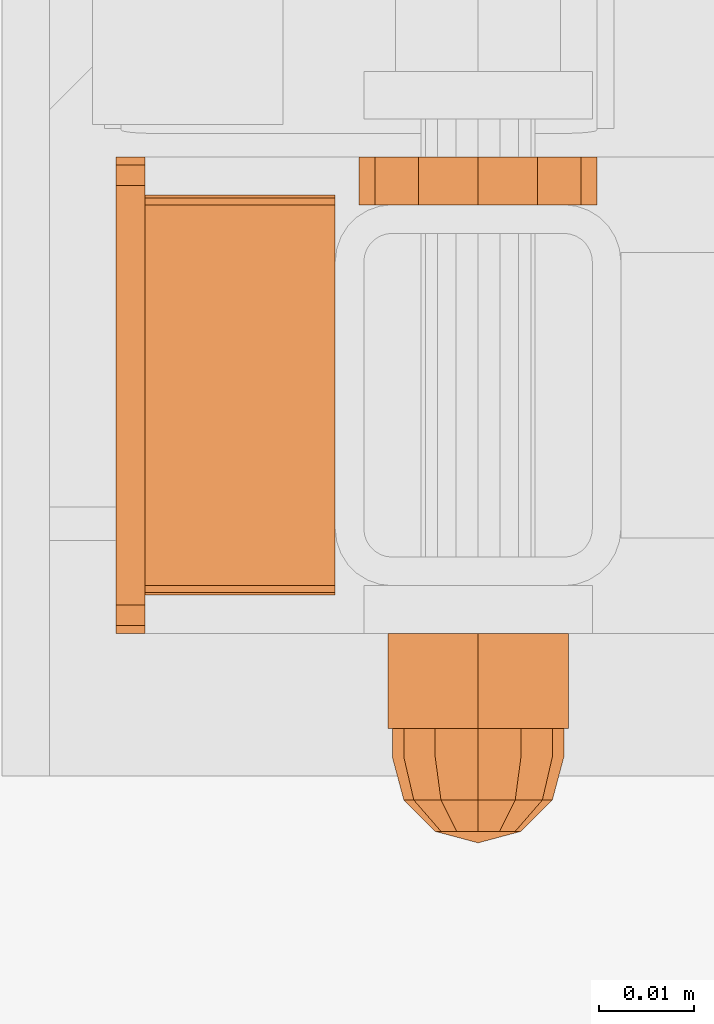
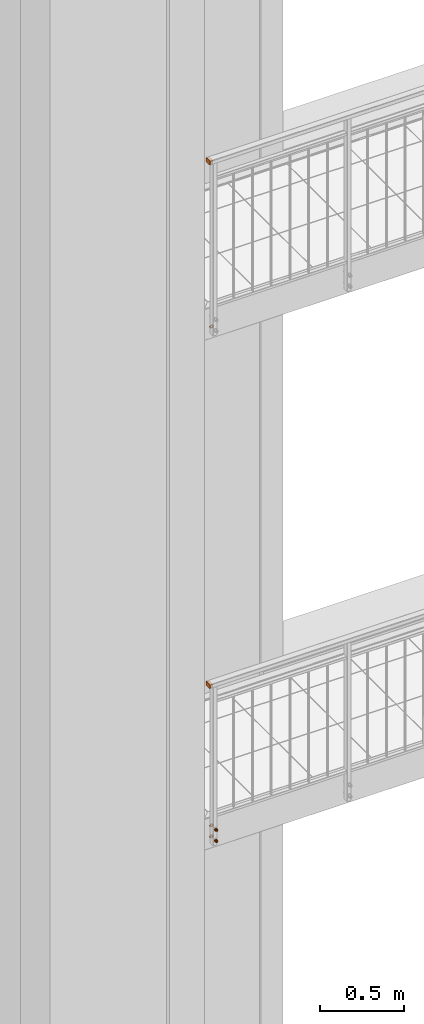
# One storey, part 102 of 162: 7 proxies.
"""IFC2X3 building model written with IfcOpenShell, lengths in millimetres."""

from ifc_helpers import new_model, entity, si_unit, converted_unit, origin_with_axes, place, context, project, spatial, faceted_brep, material, element, save


model = new_model("IFC2X3")

# Units and contexts
model_context = context("Model", 3, precision=1e-09, world=origin_with_axes())
ifc_project = project(units=[si_unit("LENGTHUNIT", "METRE", prefix="MILLI"), si_unit("AREAUNIT", "SQUARE_METRE"), si_unit("VOLUMEUNIT", "CUBIC_METRE"), converted_unit("PLANEANGLEUNIT", "DEGREE", entity("IfcPlaneAngleMeasure", 0.01745329), si_unit("PLANEANGLEUNIT", "RADIAN"), dimensions=[0, 0, 0, 0, 0, 0, 0])], contexts=[model_context])

# Site, building, storey
site_placement = place(None, origin_with_axes())
site = spatial("IfcSite", under=ifc_project, at=site_placement, Name="Hermannstra?e 1a, 60318 Frankfurt", CompositionType="ELEMENT")
building_placement = place(site_placement, origin_with_axes())
building = spatial("IfcBuilding", under=site, at=building_placement, Name="Struktur 1", CompositionType="ELEMENT")
storey_placement = place(building_placement, origin_with_axes())
storey = spatial("IfcBuildingStorey", under=building, at=storey_placement, Name="Default Storey", CompositionType="ELEMENT", Elevation=0.0)

# Proxies
ifc_material = material(Name="Kein")
proxy_1_placement = place(None, origin_with_axes())
element("IfcBuildingElementProxy", 1, at=proxy_1_placement, inside=storey, material=ifc_material, ObjectType="-", context=model_context, shape_type="Brep", body=[
    faceted_brep([(2592.484047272, 1535.609373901, 7633.75), (2597.05936482, 1535.609373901, 7629.174682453), (2603.30936482, 1535.609373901, 7627.5), (2609.55936482, 1535.609373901, 7629.174682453), (2614.134682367, 1535.609373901, 7633.75), (2615.80936482, 1535.609373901, 7640.0), (2614.134682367, 1535.609373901, 7646.25), (2609.55936482, 1535.609373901, 7650.825317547), (2603.30936482, 1535.609373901, 7652.5), (2597.05936482, 1535.609373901, 7650.825317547), (2592.484047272, 1535.609373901, 7646.25), (2590.80936482, 1535.609373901, 7640.0), (2603.30936482, 1535.609373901, 7634.0), (2600.30936482, 1535.609373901, 7634.803847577), (2598.113212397, 1535.609373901, 7637.0), (2597.30936482, 1535.609373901, 7640.0), (2598.113212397, 1535.609373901, 7643.0), (2600.30936482, 1535.609373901, 7645.196152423), (2603.30936482, 1535.609373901, 7646.0), (2606.30936482, 1535.609373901, 7645.196152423), (2608.505517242, 1535.609373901, 7643.0), (2609.30936482, 1535.609373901, 7640.0), (2608.505517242, 1535.609373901, 7637.0), (2606.30936482, 1535.609373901, 7634.803847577), (2592.484047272, 1540.609373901, 7633.75), (2597.05936482, 1540.609373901, 7629.174682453), (2590.80936482, 1540.609373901, 7640.0), (2592.484047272, 1540.609373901, 7646.25), (2597.05936482, 1540.609373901, 7650.825317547), (2603.30936482, 1540.609373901, 7652.5), (2609.55936482, 1540.609373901, 7650.825317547), (2614.134682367, 1540.609373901, 7646.25), (2615.80936482, 1540.609373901, 7640.0), (2614.134682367, 1540.609373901, 7633.75), (2609.55936482, 1540.609373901, 7629.174682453), (2603.30936482, 1540.609373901, 7627.5), (2598.113212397, 1540.609373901, 7643.0), (2597.30936482, 1540.609373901, 7640.0), (2598.113212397, 1540.609373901, 7637.0), (2600.30936482, 1540.609373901, 7634.803847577), (2603.30936482, 1540.609373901, 7634.0), (2606.30936482, 1540.609373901, 7634.803847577), (2608.505517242, 1540.609373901, 7637.0), (2609.30936482, 1540.609373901, 7640.0), (2608.505517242, 1540.609373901, 7643.0), (2606.30936482, 1540.609373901, 7645.196152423), (2603.30936482, 1540.609373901, 7646.0), (2600.30936482, 1540.609373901, 7645.196152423)], [[[0, 1, 2, 3, 4, 5, 6, 7, 8, 9, 10, 11], [12, 13, 14, 15, 16, 17, 18, 19, 20, 21, 22, 23]], [[0, 24, 25, 1]], [[24, 26, 27, 28, 29, 30, 31, 32, 33, 34, 35, 25], [36, 37, 38, 39, 40, 41, 42, 43, 44, 45, 46, 47]], [[38, 14, 13, 39]], [[24, 0, 11, 26]], [[14, 38, 37, 15]], [[39, 13, 12, 40]], [[1, 25, 35, 2]], [[26, 11, 10, 27]], [[15, 37, 36, 16]], [[40, 12, 23, 41]], [[2, 35, 34, 3]], [[27, 10, 9, 28]], [[16, 36, 47, 17]], [[22, 42, 41, 23]], [[3, 34, 33, 4]], [[42, 22, 21, 43]], [[28, 9, 8, 29]], [[17, 47, 46, 18]], [[20, 44, 43, 21]], [[4, 33, 32, 5]], [[45, 19, 18, 46]], [[44, 20, 19, 45]], [[29, 8, 7, 30]], [[5, 32, 31, 6]], [[30, 7, 6, 31]]]),
])
proxy_2_placement = place(None, origin_with_axes())
element("IfcBuildingElementProxy", 2, at=proxy_2_placement, inside=storey, material=ifc_material, ObjectType="-", context=model_context, shape_type="Brep", body=[
    faceted_brep([(2592.484047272, 1535.609373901, 7713.75), (2597.05936482, 1535.609373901, 7709.174682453), (2603.30936482, 1535.609373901, 7707.5), (2609.55936482, 1535.609373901, 7709.174682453), (2614.134682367, 1535.609373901, 7713.75), (2615.80936482, 1535.609373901, 7720.0), (2614.134682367, 1535.609373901, 7726.25), (2609.55936482, 1535.609373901, 7730.825317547), (2603.30936482, 1535.609373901, 7732.5), (2597.05936482, 1535.609373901, 7730.825317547), (2592.484047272, 1535.609373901, 7726.25), (2590.80936482, 1535.609373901, 7720.0), (2603.30936482, 1535.609373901, 7714.0), (2600.30936482, 1535.609373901, 7714.803847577), (2598.113212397, 1535.609373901, 7717.0), (2597.30936482, 1535.609373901, 7720.0), (2598.113212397, 1535.609373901, 7723.0), (2600.30936482, 1535.609373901, 7725.196152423), (2603.30936482, 1535.609373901, 7726.0), (2606.30936482, 1535.609373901, 7725.196152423), (2608.505517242, 1535.609373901, 7723.0), (2609.30936482, 1535.609373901, 7720.0), (2608.505517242, 1535.609373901, 7717.0), (2606.30936482, 1535.609373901, 7714.803847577), (2592.484047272, 1540.609373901, 7713.75), (2597.05936482, 1540.609373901, 7709.174682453), (2590.80936482, 1540.609373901, 7720.0), (2592.484047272, 1540.609373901, 7726.25), (2597.05936482, 1540.609373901, 7730.825317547), (2603.30936482, 1540.609373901, 7732.5), (2609.55936482, 1540.609373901, 7730.825317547), (2614.134682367, 1540.609373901, 7726.25), (2615.80936482, 1540.609373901, 7720.0), (2614.134682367, 1540.609373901, 7713.75), (2609.55936482, 1540.609373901, 7709.174682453), (2603.30936482, 1540.609373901, 7707.5), (2598.113212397, 1540.609373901, 7723.0), (2597.30936482, 1540.609373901, 7720.0), (2598.113212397, 1540.609373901, 7717.0), (2600.30936482, 1540.609373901, 7714.803847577), (2603.30936482, 1540.609373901, 7714.0), (2606.30936482, 1540.609373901, 7714.803847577), (2608.505517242, 1540.609373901, 7717.0), (2609.30936482, 1540.609373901, 7720.0), (2608.505517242, 1540.609373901, 7723.0), (2606.30936482, 1540.609373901, 7725.196152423), (2603.30936482, 1540.609373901, 7726.0), (2600.30936482, 1540.609373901, 7725.196152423)], [[[0, 1, 2, 3, 4, 5, 6, 7, 8, 9, 10, 11], [12, 13, 14, 15, 16, 17, 18, 19, 20, 21, 22, 23]], [[0, 24, 25, 1]], [[24, 26, 27, 28, 29, 30, 31, 32, 33, 34, 35, 25], [36, 37, 38, 39, 40, 41, 42, 43, 44, 45, 46, 47]], [[38, 14, 13, 39]], [[24, 0, 11, 26]], [[14, 38, 37, 15]], [[39, 13, 12, 40]], [[1, 25, 35, 2]], [[26, 11, 10, 27]], [[15, 37, 36, 16]], [[40, 12, 23, 41]], [[2, 35, 34, 3]], [[27, 10, 9, 28]], [[16, 36, 47, 17]], [[22, 42, 41, 23]], [[3, 34, 33, 4]], [[42, 22, 21, 43]], [[28, 9, 8, 29]], [[17, 47, 46, 18]], [[20, 44, 43, 21]], [[4, 33, 32, 5]], [[45, 19, 18, 46]], [[44, 20, 19, 45]], [[29, 8, 7, 30]], [[5, 32, 31, 6]], [[30, 7, 6, 31]]]),
])
proxy_3_placement = place(None, origin_with_axes())
element("IfcBuildingElementProxy", 3, at=proxy_3_placement, inside=storey, material=ifc_material, ObjectType="-", context=model_context, shape_type="Brep", body=[
    faceted_brep([(2597.30936482, 1490.609373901, 7720.0), (2597.30936482, 1480.609373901, 7720.0), (2598.113212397, 1480.609373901, 7717.0), (2598.113212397, 1490.609373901, 7717.0), (2600.30936482, 1480.609373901, 7714.803847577), (2600.30936482, 1490.609373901, 7714.803847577), (2598.113212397, 1490.609373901, 7723.0), (2598.113212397, 1480.609373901, 7723.0), (2593.829495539, 1490.609373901, 7725.473205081), (2603.30936482, 1490.609373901, 7730.946410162), (2612.7892341, 1490.609373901, 7725.473205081), (2612.7892341, 1490.609373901, 7714.526794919), (2603.30936482, 1490.609373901, 7709.053589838), (2593.829495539, 1490.609373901, 7714.526794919), (2600.30936482, 1490.609373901, 7725.196152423), (2603.30936482, 1490.609373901, 7714.0), (2606.30936482, 1490.609373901, 7714.803847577), (2608.505517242, 1490.609373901, 7717.0), (2609.30936482, 1490.609373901, 7720.0), (2608.505517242, 1490.609373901, 7723.0), (2606.30936482, 1490.609373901, 7725.196152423), (2603.30936482, 1490.609373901, 7726.0), (2603.30936482, 1480.609373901, 7730.946410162), (2593.829495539, 1480.609373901, 7725.473205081), (2593.829495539, 1480.609373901, 7714.526794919), (2603.30936482, 1480.609373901, 7709.053589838), (2612.7892341, 1480.609373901, 7714.526794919), (2612.7892341, 1480.609373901, 7725.473205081), (2600.30936482, 1480.609373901, 7725.196152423), (2603.30936482, 1480.609373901, 7726.0), (2606.30936482, 1480.609373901, 7725.196152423), (2608.505517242, 1480.609373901, 7723.0), (2609.30936482, 1480.609373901, 7720.0), (2608.505517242, 1480.609373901, 7717.0), (2606.30936482, 1480.609373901, 7714.803847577), (2603.30936482, 1480.609373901, 7714.0)], [[[0, 1, 2, 3]], [[3, 2, 4, 5]], [[1, 0, 6, 7]], [[8, 9, 10, 11, 12, 13], [14, 6, 0, 3, 5, 15, 16, 17, 18, 19, 20, 21]], [[22, 23, 24, 25, 26, 27], [1, 7, 28, 29, 30, 31, 32, 33, 34, 35, 4, 2]], [[7, 6, 14, 28]], [[24, 23, 8, 13]], [[5, 4, 35, 15]], [[13, 12, 25, 24]], [[28, 14, 21, 29]], [[23, 22, 9, 8]], [[15, 35, 34, 16]], [[12, 11, 26, 25]], [[29, 21, 20, 30]], [[22, 27, 10, 9]], [[16, 34, 33, 17]], [[27, 26, 11, 10]], [[30, 20, 19, 31]], [[17, 33, 32, 18]], [[31, 19, 18, 32]]]),
    faceted_brep([(2603.30936482, 1480.609373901, 7729.0), (2603.30936482, 1477.609373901, 7729.0), (2607.80936482, 1477.609373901, 7727.794228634), (2607.80936482, 1480.609373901, 7727.794228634), (2598.80936482, 1480.609373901, 7727.794228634), (2598.80936482, 1477.609373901, 7727.794228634), (2595.515136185, 1477.609373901, 7715.5), (2598.80936482, 1477.609373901, 7712.205771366), (2603.30936482, 1477.609373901, 7711.0), (2607.80936482, 1477.609373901, 7712.205771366), (2611.103593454, 1477.609373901, 7715.5), (2612.30936482, 1477.609373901, 7720.0), (2611.103593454, 1477.609373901, 7724.5), (2595.515136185, 1477.609373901, 7724.5), (2594.30936482, 1477.609373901, 7720.0), (2611.103593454, 1480.609373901, 7715.5), (2607.80936482, 1480.609373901, 7712.205771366), (2603.30936482, 1480.609373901, 7711.0), (2598.80936482, 1480.609373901, 7712.205771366), (2595.515136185, 1480.609373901, 7715.5), (2594.30936482, 1480.609373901, 7720.0), (2595.515136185, 1480.609373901, 7724.5), (2611.103593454, 1480.609373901, 7724.5), (2612.30936482, 1480.609373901, 7720.0)], [[[0, 1, 2, 3]], [[1, 0, 4, 5]], [[6, 7, 8, 9, 10, 11, 12, 2, 1, 5, 13, 14]], [[15, 16, 17, 18, 19, 20, 21, 4, 0, 3, 22, 23]], [[3, 2, 12, 22]], [[5, 4, 21, 13]], [[22, 12, 11, 23]], [[13, 21, 20, 14]], [[7, 18, 17, 8]], [[19, 6, 14, 20]], [[18, 7, 6, 19]], [[23, 11, 10, 15]], [[8, 17, 16, 9]], [[15, 10, 9, 16]]]),
    faceted_brep([(2595.515136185, 1477.609373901, 7724.5), (2596.55936482, 1473.109373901, 7723.897114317), (2599.412250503, 1473.109373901, 7726.75), (2598.80936482, 1477.609373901, 7727.794228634), (2611.103593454, 1477.609373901, 7715.5), (2607.80936482, 1477.609373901, 7712.205771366), (2603.30936482, 1477.609373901, 7711.0), (2598.80936482, 1477.609373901, 7712.205771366), (2595.515136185, 1477.609373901, 7715.5), (2594.30936482, 1477.609373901, 7720.0), (2603.30936482, 1477.609373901, 7729.0), (2607.80936482, 1477.609373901, 7727.794228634), (2611.103593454, 1477.609373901, 7724.5), (2612.30936482, 1477.609373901, 7720.0), (2603.30936482, 1473.109373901, 7727.794228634), (2595.515136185, 1473.109373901, 7720.0), (2598.80936482, 1469.815145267, 7720.0), (2599.412250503, 1469.815145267, 7722.25), (2607.206479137, 1473.109373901, 7726.75), (2601.05936482, 1469.815145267, 7723.897114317), (2596.55936482, 1473.109373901, 7716.102885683), (2599.412250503, 1469.815145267, 7717.75), (2603.30936482, 1469.815145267, 7724.5), (2603.30936482, 1468.609373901, 7720.0), (2599.412250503, 1473.109373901, 7713.25), (2601.05936482, 1469.815145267, 7716.102885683), (2603.30936482, 1473.109373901, 7712.205771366), (2610.05936482, 1473.109373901, 7723.897114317), (2605.55936482, 1469.815145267, 7723.897114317), (2603.30936482, 1469.815145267, 7715.5), (2607.206479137, 1473.109373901, 7713.25), (2605.55936482, 1469.815145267, 7716.102885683), (2611.103593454, 1473.109373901, 7720.0), (2607.206479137, 1469.815145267, 7722.25), (2610.05936482, 1473.109373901, 7716.102885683), (2607.206479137, 1469.815145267, 7717.75), (2607.80936482, 1469.815145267, 7720.0)], [[[0, 1, 2, 3]], [[4, 5, 6, 7, 8, 9, 0, 3, 10, 11, 12, 13]], [[3, 2, 14, 10]], [[15, 16, 17, 1]], [[1, 0, 9, 15]], [[10, 14, 18, 11]], [[1, 17, 19, 2]], [[16, 15, 20, 21]], [[2, 19, 22, 14]], [[23, 17, 16]], [[24, 25, 21, 20]], [[23, 16, 21]], [[24, 7, 6, 26]], [[20, 8, 7, 24]], [[15, 9, 8, 20]], [[11, 18, 27, 12]], [[14, 22, 28, 18]], [[23, 19, 17]], [[26, 29, 25, 24]], [[23, 21, 25]], [[23, 22, 19]], [[26, 6, 5, 30]], [[29, 26, 30, 31]], [[23, 25, 29]], [[12, 27, 32, 13]], [[18, 28, 33, 27]], [[23, 28, 22]], [[23, 29, 31]], [[23, 33, 28]], [[30, 5, 4, 34]], [[31, 30, 34, 35]], [[23, 31, 35]], [[13, 32, 34, 4]], [[27, 33, 36, 32]], [[23, 36, 33]], [[23, 35, 36]], [[35, 34, 32, 36]]]),
])
proxy_4_placement = place(None, origin_with_axes())
element("IfcBuildingElementProxy", 4, at=proxy_4_placement, inside=storey, material=ifc_material, ObjectType="-", context=model_context, shape_type="Brep", body=[
    faceted_brep([(2597.30936482, 1490.609373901, 7640.0), (2597.30936482, 1480.609373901, 7640.0), (2598.113212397, 1480.609373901, 7637.0), (2598.113212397, 1490.609373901, 7637.0), (2600.30936482, 1480.609373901, 7634.803847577), (2600.30936482, 1490.609373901, 7634.803847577), (2598.113212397, 1490.609373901, 7643.0), (2598.113212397, 1480.609373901, 7643.0), (2593.829495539, 1490.609373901, 7645.473205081), (2603.30936482, 1490.609373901, 7650.946410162), (2612.7892341, 1490.609373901, 7645.473205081), (2612.7892341, 1490.609373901, 7634.526794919), (2603.30936482, 1490.609373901, 7629.053589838), (2593.829495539, 1490.609373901, 7634.526794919), (2600.30936482, 1490.609373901, 7645.196152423), (2603.30936482, 1490.609373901, 7634.0), (2606.30936482, 1490.609373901, 7634.803847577), (2608.505517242, 1490.609373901, 7637.0), (2609.30936482, 1490.609373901, 7640.0), (2608.505517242, 1490.609373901, 7643.0), (2606.30936482, 1490.609373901, 7645.196152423), (2603.30936482, 1490.609373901, 7646.0), (2603.30936482, 1480.609373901, 7650.946410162), (2593.829495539, 1480.609373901, 7645.473205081), (2593.829495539, 1480.609373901, 7634.526794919), (2603.30936482, 1480.609373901, 7629.053589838), (2612.7892341, 1480.609373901, 7634.526794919), (2612.7892341, 1480.609373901, 7645.473205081), (2600.30936482, 1480.609373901, 7645.196152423), (2603.30936482, 1480.609373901, 7646.0), (2606.30936482, 1480.609373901, 7645.196152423), (2608.505517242, 1480.609373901, 7643.0), (2609.30936482, 1480.609373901, 7640.0), (2608.505517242, 1480.609373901, 7637.0), (2606.30936482, 1480.609373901, 7634.803847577), (2603.30936482, 1480.609373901, 7634.0)], [[[0, 1, 2, 3]], [[3, 2, 4, 5]], [[1, 0, 6, 7]], [[8, 9, 10, 11, 12, 13], [14, 6, 0, 3, 5, 15, 16, 17, 18, 19, 20, 21]], [[22, 23, 24, 25, 26, 27], [1, 7, 28, 29, 30, 31, 32, 33, 34, 35, 4, 2]], [[7, 6, 14, 28]], [[24, 23, 8, 13]], [[5, 4, 35, 15]], [[13, 12, 25, 24]], [[28, 14, 21, 29]], [[23, 22, 9, 8]], [[15, 35, 34, 16]], [[12, 11, 26, 25]], [[29, 21, 20, 30]], [[22, 27, 10, 9]], [[16, 34, 33, 17]], [[27, 26, 11, 10]], [[30, 20, 19, 31]], [[17, 33, 32, 18]], [[31, 19, 18, 32]]]),
    faceted_brep([(2603.30936482, 1480.609373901, 7649.0), (2603.30936482, 1477.609373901, 7649.0), (2607.80936482, 1477.609373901, 7647.794228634), (2607.80936482, 1480.609373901, 7647.794228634), (2598.80936482, 1480.609373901, 7647.794228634), (2598.80936482, 1477.609373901, 7647.794228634), (2595.515136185, 1477.609373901, 7635.5), (2598.80936482, 1477.609373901, 7632.205771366), (2603.30936482, 1477.609373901, 7631.0), (2607.80936482, 1477.609373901, 7632.205771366), (2611.103593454, 1477.609373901, 7635.5), (2612.30936482, 1477.609373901, 7640.0), (2611.103593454, 1477.609373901, 7644.5), (2595.515136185, 1477.609373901, 7644.5), (2594.30936482, 1477.609373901, 7640.0), (2611.103593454, 1480.609373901, 7635.5), (2607.80936482, 1480.609373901, 7632.205771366), (2603.30936482, 1480.609373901, 7631.0), (2598.80936482, 1480.609373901, 7632.205771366), (2595.515136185, 1480.609373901, 7635.5), (2594.30936482, 1480.609373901, 7640.0), (2595.515136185, 1480.609373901, 7644.5), (2611.103593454, 1480.609373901, 7644.5), (2612.30936482, 1480.609373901, 7640.0)], [[[0, 1, 2, 3]], [[1, 0, 4, 5]], [[6, 7, 8, 9, 10, 11, 12, 2, 1, 5, 13, 14]], [[15, 16, 17, 18, 19, 20, 21, 4, 0, 3, 22, 23]], [[3, 2, 12, 22]], [[5, 4, 21, 13]], [[22, 12, 11, 23]], [[13, 21, 20, 14]], [[7, 18, 17, 8]], [[19, 6, 14, 20]], [[18, 7, 6, 19]], [[23, 11, 10, 15]], [[8, 17, 16, 9]], [[15, 10, 9, 16]]]),
    faceted_brep([(2595.515136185, 1477.609373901, 7644.5), (2596.55936482, 1473.109373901, 7643.897114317), (2599.412250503, 1473.109373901, 7646.75), (2598.80936482, 1477.609373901, 7647.794228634), (2611.103593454, 1477.609373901, 7635.5), (2607.80936482, 1477.609373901, 7632.205771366), (2603.30936482, 1477.609373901, 7631.0), (2598.80936482, 1477.609373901, 7632.205771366), (2595.515136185, 1477.609373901, 7635.5), (2594.30936482, 1477.609373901, 7640.0), (2603.30936482, 1477.609373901, 7649.0), (2607.80936482, 1477.609373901, 7647.794228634), (2611.103593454, 1477.609373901, 7644.5), (2612.30936482, 1477.609373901, 7640.0), (2603.30936482, 1473.109373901, 7647.794228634), (2595.515136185, 1473.109373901, 7640.0), (2598.80936482, 1469.815145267, 7640.0), (2599.412250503, 1469.815145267, 7642.25), (2607.206479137, 1473.109373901, 7646.75), (2601.05936482, 1469.815145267, 7643.897114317), (2596.55936482, 1473.109373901, 7636.102885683), (2599.412250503, 1469.815145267, 7637.75), (2603.30936482, 1469.815145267, 7644.5), (2603.30936482, 1468.609373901, 7640.0), (2599.412250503, 1473.109373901, 7633.25), (2601.05936482, 1469.815145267, 7636.102885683), (2603.30936482, 1473.109373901, 7632.205771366), (2610.05936482, 1473.109373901, 7643.897114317), (2605.55936482, 1469.815145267, 7643.897114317), (2603.30936482, 1469.815145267, 7635.5), (2607.206479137, 1473.109373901, 7633.25), (2605.55936482, 1469.815145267, 7636.102885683), (2611.103593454, 1473.109373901, 7640.0), (2607.206479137, 1469.815145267, 7642.25), (2610.05936482, 1473.109373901, 7636.102885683), (2607.206479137, 1469.815145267, 7637.75), (2607.80936482, 1469.815145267, 7640.0)], [[[0, 1, 2, 3]], [[4, 5, 6, 7, 8, 9, 0, 3, 10, 11, 12, 13]], [[3, 2, 14, 10]], [[15, 16, 17, 1]], [[1, 0, 9, 15]], [[10, 14, 18, 11]], [[1, 17, 19, 2]], [[16, 15, 20, 21]], [[2, 19, 22, 14]], [[23, 17, 16]], [[24, 25, 21, 20]], [[23, 16, 21]], [[24, 7, 6, 26]], [[20, 8, 7, 24]], [[15, 9, 8, 20]], [[11, 18, 27, 12]], [[14, 22, 28, 18]], [[23, 19, 17]], [[26, 29, 25, 24]], [[23, 21, 25]], [[23, 22, 19]], [[26, 6, 5, 30]], [[29, 26, 30, 31]], [[23, 25, 29]], [[12, 27, 32, 13]], [[18, 28, 33, 27]], [[23, 28, 22]], [[23, 29, 31]], [[23, 33, 28]], [[30, 5, 4, 34]], [[31, 30, 34, 35]], [[23, 31, 35]], [[13, 32, 34, 4]], [[27, 33, 36, 32]], [[23, 36, 33]], [[23, 35, 36]], [[35, 34, 32, 36]]]),
])
proxy_5_placement = place(None, origin_with_axes())
element("IfcBuildingElementProxy", 5, at=proxy_5_placement, inside=storey, material=ifc_material, ObjectType="-", context=model_context, shape_type="Brep", body=[
    faceted_brep([(2588.31036482, 1494.609373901, 8756.0), (2588.31036482, 1494.609373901, 8774.0), (2568.31036482, 1494.609373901, 8774.0), (2568.31036482, 1494.609373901, 8756.0), (2588.31036482, 1494.877323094, 8775.0), (2568.31036482, 1494.877323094, 8775.0), (2568.31036482, 1495.609373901, 8775.732050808), (2588.31036482, 1495.609373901, 8775.732050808), (2588.31036482, 1496.609373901, 8776.0), (2568.31036482, 1496.609373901, 8776.0), (2568.31036482, 1494.877323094, 8755.0), (2588.31036482, 1494.877323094, 8755.0), (2568.31036482, 1495.609373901, 8754.267949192), (2588.31036482, 1495.609373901, 8754.267949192), (2588.31036482, 1496.609373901, 8754.0), (2588.31036482, 1534.609373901, 8754.0), (2588.31036482, 1535.609373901, 8754.267949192), (2588.31036482, 1536.341424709, 8755.0), (2588.31036482, 1536.609373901, 8756.0), (2588.31036482, 1536.609373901, 8774.0), (2588.31036482, 1536.341424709, 8775.0), (2588.31036482, 1535.609373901, 8775.732050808), (2588.31036482, 1534.609373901, 8776.0), (2588.31036482, 1498.609373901, 8772.0), (2588.31036482, 1532.609373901, 8772.0), (2588.31036482, 1532.609373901, 8758.0), (2588.31036482, 1498.609373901, 8758.0), (2568.31036482, 1534.609373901, 8776.0), (2568.31036482, 1535.609373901, 8775.732050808), (2568.31036482, 1536.341424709, 8775.0), (2568.31036482, 1536.609373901, 8774.0), (2568.31036482, 1536.609373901, 8756.0), (2568.31036482, 1536.341424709, 8755.0), (2568.31036482, 1535.609373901, 8754.267949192), (2568.31036482, 1534.609373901, 8754.0), (2568.31036482, 1496.609373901, 8754.0), (2568.31036482, 1498.609373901, 8772.0), (2568.31036482, 1498.609373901, 8758.0), (2568.31036482, 1532.609373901, 8758.0), (2568.31036482, 1532.609373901, 8772.0)], [[[0, 1, 2, 3]], [[2, 1, 4, 5]], [[6, 7, 8, 9]], [[5, 4, 7, 6]], [[0, 3, 10, 11]], [[11, 10, 12, 13]], [[7, 4, 1, 0, 11, 13, 14, 15, 16, 17, 18, 19, 20, 21, 22, 8], [23, 24, 25, 26]], [[3, 2, 5, 6, 9, 27, 28, 29, 30, 31, 32, 33, 34, 35, 12, 10], [36, 37, 38, 39]], [[21, 28, 27, 22]], [[8, 22, 27, 9]], [[37, 36, 23, 26]], [[28, 21, 20, 29]], [[13, 12, 35, 14]], [[26, 25, 38, 37]], [[15, 14, 35, 34]], [[15, 34, 33, 16]], [[36, 39, 24, 23]], [[29, 20, 19, 30]], [[16, 33, 32, 17]], [[25, 24, 39, 38]], [[19, 18, 31, 30]], [[17, 32, 31, 18]]]),
    faceted_brep([(2565.31036482, 1496.609373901, 8750.0), (2568.31036482, 1496.609373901, 8750.0), (2568.31036482, 1493.609373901, 8750.803847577), (2565.31036482, 1493.609373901, 8750.803847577), (2568.31036482, 1491.413221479, 8753.0), (2565.31036482, 1491.413221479, 8753.0), (2568.31036482, 1534.609373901, 8750.0), (2565.31036482, 1534.609373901, 8750.0), (2565.31036482, 1537.609373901, 8750.803847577), (2568.31036482, 1537.609373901, 8750.803847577), (2565.31036482, 1539.805526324, 8753.0), (2568.31036482, 1539.805526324, 8753.0), (2568.31036482, 1490.609373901, 8756.0), (2568.31036482, 1540.609373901, 8756.0), (2568.31036482, 1540.609373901, 8774.0), (2568.31036482, 1539.805526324, 8777.0), (2568.31036482, 1537.609373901, 8779.196152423), (2568.31036482, 1534.609373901, 8780.0), (2568.31036482, 1496.609373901, 8780.0), (2568.31036482, 1493.609373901, 8779.196152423), (2568.31036482, 1491.413221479, 8777.0), (2568.31036482, 1490.609373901, 8774.0), (2565.31036482, 1540.609373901, 8756.0), (2565.31036482, 1490.609373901, 8756.0), (2565.31036482, 1490.609373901, 8774.0), (2565.31036482, 1491.413221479, 8777.0), (2565.31036482, 1493.609373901, 8779.196152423), (2565.31036482, 1496.609373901, 8780.0), (2565.31036482, 1534.609373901, 8780.0), (2565.31036482, 1537.609373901, 8779.196152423), (2565.31036482, 1539.805526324, 8777.0), (2565.31036482, 1540.609373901, 8774.0)], [[[0, 1, 2, 3]], [[3, 2, 4, 5]], [[6, 7, 8, 9]], [[9, 8, 10, 11]], [[12, 4, 2, 1, 6, 9, 11, 13, 14, 15, 16, 17, 18, 19, 20, 21]], [[0, 7, 6, 1]], [[22, 10, 8, 7, 0, 3, 5, 23, 24, 25, 26, 27, 28, 29, 30, 31]], [[5, 4, 12, 23]], [[12, 21, 24, 23]], [[11, 10, 22, 13]], [[19, 26, 25, 20]], [[20, 25, 24, 21]], [[26, 19, 18, 27]], [[22, 31, 14, 13]], [[18, 17, 28, 27]], [[14, 31, 30, 15]], [[16, 29, 28, 17]], [[15, 30, 29, 16]]]),
])
proxy_6_placement = place(None, origin_with_axes())
element("IfcBuildingElementProxy", 6, at=proxy_6_placement, inside=storey, material=ifc_material, ObjectType="-", context=model_context, shape_type="Brep", body=[
    faceted_brep([(2588.31036482, 1494.609373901, 12555.999), (2588.31036482, 1494.609373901, 12573.999), (2568.31036482, 1494.609373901, 12573.999), (2568.31036482, 1494.609373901, 12555.999), (2588.31036482, 1494.877323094, 12574.999), (2568.31036482, 1494.877323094, 12574.999), (2568.31036482, 1495.609373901, 12575.731050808), (2588.31036482, 1495.609373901, 12575.731050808), (2588.31036482, 1496.609373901, 12575.999), (2568.31036482, 1496.609373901, 12575.999), (2568.31036482, 1494.877323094, 12554.999), (2588.31036482, 1494.877323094, 12554.999), (2568.31036482, 1495.609373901, 12554.266949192), (2588.31036482, 1495.609373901, 12554.266949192), (2588.31036482, 1496.609373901, 12553.999), (2588.31036482, 1534.609373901, 12553.999), (2588.31036482, 1535.609373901, 12554.266949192), (2588.31036482, 1536.341424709, 12554.999), (2588.31036482, 1536.609373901, 12555.999), (2588.31036482, 1536.609373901, 12573.999), (2588.31036482, 1536.341424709, 12574.999), (2588.31036482, 1535.609373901, 12575.731050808), (2588.31036482, 1534.609373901, 12575.999), (2588.31036482, 1498.609373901, 12571.999), (2588.31036482, 1532.609373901, 12571.999), (2588.31036482, 1532.609373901, 12557.999), (2588.31036482, 1498.609373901, 12557.999), (2568.31036482, 1534.609373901, 12575.999), (2568.31036482, 1535.609373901, 12575.731050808), (2568.31036482, 1536.341424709, 12574.999), (2568.31036482, 1536.609373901, 12573.999), (2568.31036482, 1536.609373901, 12555.999), (2568.31036482, 1536.341424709, 12554.999), (2568.31036482, 1535.609373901, 12554.266949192), (2568.31036482, 1534.609373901, 12553.999), (2568.31036482, 1496.609373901, 12553.999), (2568.31036482, 1498.609373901, 12571.999), (2568.31036482, 1498.609373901, 12557.999), (2568.31036482, 1532.609373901, 12557.999), (2568.31036482, 1532.609373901, 12571.999)], [[[0, 1, 2, 3]], [[2, 1, 4, 5]], [[6, 7, 8, 9]], [[5, 4, 7, 6]], [[0, 3, 10, 11]], [[11, 10, 12, 13]], [[7, 4, 1, 0, 11, 13, 14, 15, 16, 17, 18, 19, 20, 21, 22, 8], [23, 24, 25, 26]], [[3, 2, 5, 6, 9, 27, 28, 29, 30, 31, 32, 33, 34, 35, 12, 10], [36, 37, 38, 39]], [[21, 28, 27, 22]], [[8, 22, 27, 9]], [[37, 36, 23, 26]], [[28, 21, 20, 29]], [[13, 12, 35, 14]], [[26, 25, 38, 37]], [[15, 14, 35, 34]], [[15, 34, 33, 16]], [[36, 39, 24, 23]], [[29, 20, 19, 30]], [[16, 33, 32, 17]], [[25, 24, 39, 38]], [[19, 18, 31, 30]], [[17, 32, 31, 18]]]),
    faceted_brep([(2565.31036482, 1496.609373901, 12549.999), (2568.31036482, 1496.609373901, 12549.999), (2568.31036482, 1493.609373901, 12550.802847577), (2565.31036482, 1493.609373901, 12550.802847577), (2568.31036482, 1491.413221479, 12552.999), (2565.31036482, 1491.413221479, 12552.999), (2568.31036482, 1534.609373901, 12549.999), (2565.31036482, 1534.609373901, 12549.999), (2565.31036482, 1537.609373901, 12550.802847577), (2568.31036482, 1537.609373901, 12550.802847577), (2565.31036482, 1539.805526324, 12552.999), (2568.31036482, 1539.805526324, 12552.999), (2568.31036482, 1490.609373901, 12555.999), (2568.31036482, 1540.609373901, 12555.999), (2568.31036482, 1540.609373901, 12573.999), (2568.31036482, 1539.805526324, 12576.999), (2568.31036482, 1537.609373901, 12579.195152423), (2568.31036482, 1534.609373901, 12579.999), (2568.31036482, 1496.609373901, 12579.999), (2568.31036482, 1493.609373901, 12579.195152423), (2568.31036482, 1491.413221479, 12576.999), (2568.31036482, 1490.609373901, 12573.999), (2565.31036482, 1540.609373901, 12555.999), (2565.31036482, 1490.609373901, 12555.999), (2565.31036482, 1490.609373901, 12573.999), (2565.31036482, 1491.413221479, 12576.999), (2565.31036482, 1493.609373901, 12579.195152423), (2565.31036482, 1496.609373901, 12579.999), (2565.31036482, 1534.609373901, 12579.999), (2565.31036482, 1537.609373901, 12579.195152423), (2565.31036482, 1539.805526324, 12576.999), (2565.31036482, 1540.609373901, 12573.999)], [[[0, 1, 2, 3]], [[3, 2, 4, 5]], [[6, 7, 8, 9]], [[9, 8, 10, 11]], [[12, 4, 2, 1, 6, 9, 11, 13, 14, 15, 16, 17, 18, 19, 20, 21]], [[0, 7, 6, 1]], [[22, 10, 8, 7, 0, 3, 5, 23, 24, 25, 26, 27, 28, 29, 30, 31]], [[5, 4, 12, 23]], [[12, 21, 24, 23]], [[11, 10, 22, 13]], [[19, 26, 25, 20]], [[20, 25, 24, 21]], [[26, 19, 18, 27]], [[22, 31, 14, 13]], [[18, 17, 28, 27]], [[14, 31, 30, 15]], [[16, 29, 28, 17]], [[15, 30, 29, 16]]]),
])
proxy_7_placement = place(None, origin_with_axes())
element("IfcBuildingElementProxy", 7, at=proxy_7_placement, inside=storey, material=ifc_material, ObjectType="-", context=model_context, shape_type="Brep", body=[
    faceted_brep([(2592.484047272, 1535.609373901, 11333.749), (2597.05936482, 1535.609373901, 11329.173682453), (2603.30936482, 1535.609373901, 11327.499), (2609.55936482, 1535.609373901, 11329.173682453), (2614.134682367, 1535.609373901, 11333.749), (2615.80936482, 1535.609373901, 11339.999), (2614.134682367, 1535.609373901, 11346.249), (2609.55936482, 1535.609373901, 11350.824317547), (2603.30936482, 1535.609373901, 11352.499), (2597.05936482, 1535.609373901, 11350.824317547), (2592.484047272, 1535.609373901, 11346.249), (2590.80936482, 1535.609373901, 11339.999), (2603.30936482, 1535.609373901, 11333.999), (2600.30936482, 1535.609373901, 11334.802847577), (2598.113212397, 1535.609373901, 11336.999), (2597.30936482, 1535.609373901, 11339.999), (2598.113212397, 1535.609373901, 11342.999), (2600.30936482, 1535.609373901, 11345.195152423), (2603.30936482, 1535.609373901, 11345.999), (2606.30936482, 1535.609373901, 11345.195152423), (2608.505517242, 1535.609373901, 11342.999), (2609.30936482, 1535.609373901, 11339.999), (2608.505517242, 1535.609373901, 11336.999), (2606.30936482, 1535.609373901, 11334.802847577), (2592.484047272, 1540.609373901, 11333.749), (2597.05936482, 1540.609373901, 11329.173682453), (2590.80936482, 1540.609373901, 11339.999), (2592.484047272, 1540.609373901, 11346.249), (2597.05936482, 1540.609373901, 11350.824317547), (2603.30936482, 1540.609373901, 11352.499), (2609.55936482, 1540.609373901, 11350.824317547), (2614.134682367, 1540.609373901, 11346.249), (2615.80936482, 1540.609373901, 11339.999), (2614.134682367, 1540.609373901, 11333.749), (2609.55936482, 1540.609373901, 11329.173682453), (2603.30936482, 1540.609373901, 11327.499), (2598.113212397, 1540.609373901, 11342.999), (2597.30936482, 1540.609373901, 11339.999), (2598.113212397, 1540.609373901, 11336.999), (2600.30936482, 1540.609373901, 11334.802847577), (2603.30936482, 1540.609373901, 11333.999), (2606.30936482, 1540.609373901, 11334.802847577), (2608.505517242, 1540.609373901, 11336.999), (2609.30936482, 1540.609373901, 11339.999), (2608.505517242, 1540.609373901, 11342.999), (2606.30936482, 1540.609373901, 11345.195152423), (2603.30936482, 1540.609373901, 11345.999), (2600.30936482, 1540.609373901, 11345.195152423)], [[[0, 1, 2, 3, 4, 5, 6, 7, 8, 9, 10, 11], [12, 13, 14, 15, 16, 17, 18, 19, 20, 21, 22, 23]], [[0, 24, 25, 1]], [[24, 26, 27, 28, 29, 30, 31, 32, 33, 34, 35, 25], [36, 37, 38, 39, 40, 41, 42, 43, 44, 45, 46, 47]], [[38, 14, 13, 39]], [[24, 0, 11, 26]], [[14, 38, 37, 15]], [[39, 13, 12, 40]], [[1, 25, 35, 2]], [[26, 11, 10, 27]], [[15, 37, 36, 16]], [[40, 12, 23, 41]], [[2, 35, 34, 3]], [[27, 10, 9, 28]], [[16, 36, 47, 17]], [[22, 42, 41, 23]], [[3, 34, 33, 4]], [[42, 22, 21, 43]], [[28, 9, 8, 29]], [[17, 47, 46, 18]], [[20, 44, 43, 21]], [[4, 33, 32, 5]], [[45, 19, 18, 46]], [[44, 20, 19, 45]], [[29, 8, 7, 30]], [[5, 32, 31, 6]], [[30, 7, 6, 31]]]),
])

save(model, "model.ifc")
